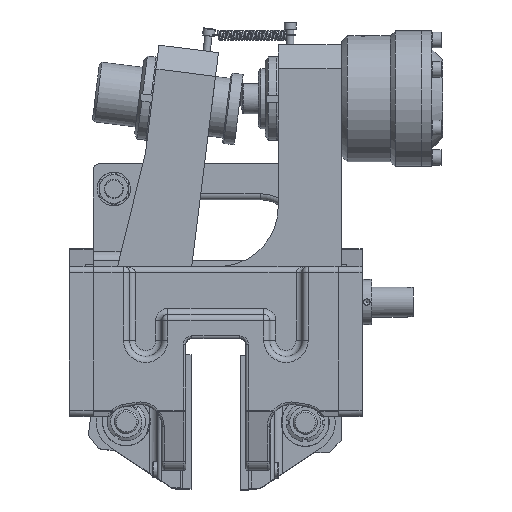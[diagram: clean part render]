
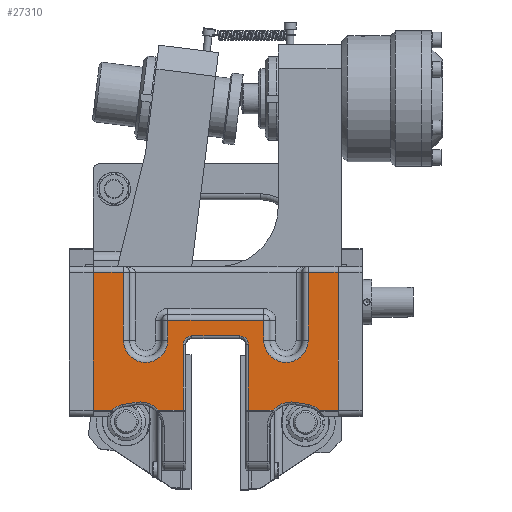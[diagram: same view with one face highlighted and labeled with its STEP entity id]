
A CAD part, top view. The second image highlights one B-rep face of the part: STEP entity #27310.
In plain terms, the highlighted planar face has unit normal (0, 0, 1).
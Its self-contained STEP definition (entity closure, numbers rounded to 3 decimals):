
#1729=PLANE('',#29846);
#2863=FACE_OUTER_BOUND('',#4480,.T.);
#4480=EDGE_LOOP('',(#22017,#22018,#22019,#22020,#22021,#22022,#22023,#22024,
#22025,#22026,#22027,#22028,#22029,#22030,#22031,#22032,#22033,#22034,#22035,
#22036,#22037,#22038,#22039,#22040,#22041,#22042));
#6318=LINE('',#50148,#8217);
#6429=LINE('',#50485,#8328);
#6474=LINE('',#50668,#8373);
#6475=LINE('',#50741,#8374);
#6477=LINE('',#50745,#8376);
#6478=LINE('',#50747,#8377);
#6479=LINE('',#50751,#8378);
#6480=LINE('',#50755,#8379);
#6481=LINE('',#50757,#8380);
#6482=LINE('',#50761,#8381);
#6483=LINE('',#50764,#8382);
#6484=LINE('',#50766,#8383);
#6485=LINE('',#50768,#8384);
#6486=LINE('',#50772,#8385);
#6487=LINE('',#50774,#8386);
#6488=LINE('',#50776,#8387);
#6489=LINE('',#50780,#8388);
#6490=LINE('',#50781,#8389);
#8217=VECTOR('',#35652,10.);
#8328=VECTOR('',#35975,10.);
#8373=VECTOR('',#36100,10.);
#8374=VECTOR('',#36117,10.);
#8376=VECTOR('',#36121,10.);
#8377=VECTOR('',#36122,10.);
#8378=VECTOR('',#36125,10.);
#8379=VECTOR('',#36128,10.);
#8380=VECTOR('',#36129,10.);
#8381=VECTOR('',#36132,10.);
#8382=VECTOR('',#36135,10.);
#8383=VECTOR('',#36136,5.);
#8384=VECTOR('',#36137,10.);
#8385=VECTOR('',#36140,10.);
#8386=VECTOR('',#36141,10.);
#8387=VECTOR('',#36142,10.);
#8388=VECTOR('',#36145,10.);
#8389=VECTOR('',#36146,5.);
#9906=CIRCLE('',#29835,20.);
#9910=CIRCLE('',#29841,18.);
#9912=CIRCLE('',#29847,7.);
#9913=CIRCLE('',#29848,7.);
#9914=CIRCLE('',#29849,20.);
#9915=CIRCLE('',#29850,18.);
#9916=CIRCLE('',#29851,18.5);
#9917=CIRCLE('',#29852,18.5);
#12066=VERTEX_POINT('',#50141);
#12068=VERTEX_POINT('',#50147);
#12185=VERTEX_POINT('',#50475);
#12188=VERTEX_POINT('',#50483);
#12221=VERTEX_POINT('',#50646);
#12223=VERTEX_POINT('',#50658);
#12225=VERTEX_POINT('',#50664);
#12227=VERTEX_POINT('',#50670);
#12233=VERTEX_POINT('',#50744);
#12234=VERTEX_POINT('',#50746);
#12235=VERTEX_POINT('',#50748);
#12236=VERTEX_POINT('',#50750);
#12237=VERTEX_POINT('',#50752);
#12238=VERTEX_POINT('',#50754);
#12239=VERTEX_POINT('',#50756);
#12240=VERTEX_POINT('',#50758);
#12241=VERTEX_POINT('',#50760);
#12242=VERTEX_POINT('',#50762);
#12243=VERTEX_POINT('',#50765);
#12244=VERTEX_POINT('',#50767);
#12245=VERTEX_POINT('',#50769);
#12246=VERTEX_POINT('',#50771);
#12247=VERTEX_POINT('',#50773);
#12248=VERTEX_POINT('',#50775);
#12249=VERTEX_POINT('',#50777);
#12250=VERTEX_POINT('',#50779);
#15433=EDGE_CURVE('',#12068,#12066,#6318,.T.);
#15602=EDGE_CURVE('',#12185,#12188,#6429,.T.);
#15666=EDGE_CURVE('',#12221,#12223,#9906,.T.);
#15669=EDGE_CURVE('',#12223,#12225,#6474,.T.);
#15672=EDGE_CURVE('',#12225,#12227,#9910,.T.);
#15679=EDGE_CURVE('',#12227,#12066,#6475,.T.);
#15681=EDGE_CURVE('',#12233,#12221,#6477,.T.);
#15682=EDGE_CURVE('',#12234,#12233,#6478,.T.);
#15683=EDGE_CURVE('',#12235,#12234,#9912,.T.);
#15684=EDGE_CURVE('',#12236,#12235,#6479,.T.);
#15685=EDGE_CURVE('',#12237,#12236,#9913,.T.);
#15686=EDGE_CURVE('',#12238,#12237,#6480,.T.);
#15687=EDGE_CURVE('',#12239,#12238,#6481,.T.);
#15688=EDGE_CURVE('',#12240,#12239,#9914,.T.);
#15689=EDGE_CURVE('',#12241,#12240,#6482,.T.);
#15690=EDGE_CURVE('',#12242,#12241,#9915,.T.);
#15691=EDGE_CURVE('',#12185,#12242,#6483,.T.);
#15692=EDGE_CURVE('',#12243,#12188,#6484,.T.);
#15693=EDGE_CURVE('',#12244,#12243,#6485,.T.);
#15694=EDGE_CURVE('',#12245,#12244,#9916,.T.);
#15695=EDGE_CURVE('',#12246,#12245,#6486,.T.);
#15696=EDGE_CURVE('',#12247,#12246,#6487,.T.);
#15697=EDGE_CURVE('',#12248,#12247,#6488,.T.);
#15698=EDGE_CURVE('',#12249,#12248,#9917,.T.);
#15699=EDGE_CURVE('',#12250,#12249,#6489,.T.);
#15700=EDGE_CURVE('',#12068,#12250,#6490,.T.);
#22017=ORIENTED_EDGE('',*,*,#15672,.F.);
#22018=ORIENTED_EDGE('',*,*,#15669,.F.);
#22019=ORIENTED_EDGE('',*,*,#15666,.F.);
#22020=ORIENTED_EDGE('',*,*,#15681,.F.);
#22021=ORIENTED_EDGE('',*,*,#15682,.F.);
#22022=ORIENTED_EDGE('',*,*,#15683,.F.);
#22023=ORIENTED_EDGE('',*,*,#15684,.F.);
#22024=ORIENTED_EDGE('',*,*,#15685,.F.);
#22025=ORIENTED_EDGE('',*,*,#15686,.F.);
#22026=ORIENTED_EDGE('',*,*,#15687,.F.);
#22027=ORIENTED_EDGE('',*,*,#15688,.F.);
#22028=ORIENTED_EDGE('',*,*,#15689,.F.);
#22029=ORIENTED_EDGE('',*,*,#15690,.F.);
#22030=ORIENTED_EDGE('',*,*,#15691,.F.);
#22031=ORIENTED_EDGE('',*,*,#15602,.T.);
#22032=ORIENTED_EDGE('',*,*,#15692,.F.);
#22033=ORIENTED_EDGE('',*,*,#15693,.F.);
#22034=ORIENTED_EDGE('',*,*,#15694,.F.);
#22035=ORIENTED_EDGE('',*,*,#15695,.F.);
#22036=ORIENTED_EDGE('',*,*,#15696,.F.);
#22037=ORIENTED_EDGE('',*,*,#15697,.F.);
#22038=ORIENTED_EDGE('',*,*,#15698,.F.);
#22039=ORIENTED_EDGE('',*,*,#15699,.F.);
#22040=ORIENTED_EDGE('',*,*,#15700,.F.);
#22041=ORIENTED_EDGE('',*,*,#15433,.T.);
#22042=ORIENTED_EDGE('',*,*,#15679,.F.);
#27310=ADVANCED_FACE('',(#2863),#1729,.T.);
#29835=AXIS2_PLACEMENT_3D('',#50662,#36093,#36094);
#29841=AXIS2_PLACEMENT_3D('',#50674,#36107,#36108);
#29846=AXIS2_PLACEMENT_3D('',#50743,#36119,#36120);
#29847=AXIS2_PLACEMENT_3D('',#50749,#36123,#36124);
#29848=AXIS2_PLACEMENT_3D('',#50753,#36126,#36127);
#29849=AXIS2_PLACEMENT_3D('',#50759,#36130,#36131);
#29850=AXIS2_PLACEMENT_3D('',#50763,#36133,#36134);
#29851=AXIS2_PLACEMENT_3D('',#50770,#36138,#36139);
#29852=AXIS2_PLACEMENT_3D('',#50778,#36143,#36144);
#35652=DIRECTION('',(0.,-1.,0.));
#35975=DIRECTION('',(0.,1.,0.));
#36093=DIRECTION('center_axis',(0.,0.,
1.));
#36094=DIRECTION('ref_axis',(0.29,0.957,0.));
#36100=DIRECTION('',(-0.985,-0.174,0.));
#36107=DIRECTION('center_axis',(0.,0.,
1.));
#36108=DIRECTION('ref_axis',(-0.388,0.922,0.));
#36117=DIRECTION('',(-1.,0.,0.));
#36119=DIRECTION('center_axis',(0.,0.,
1.));
#36120=DIRECTION('ref_axis',(1.,0.,0.));
#36121=DIRECTION('',(-1.,0.,0.));
#36122=DIRECTION('',(0.,-1.,0.));
#36123=DIRECTION('center_axis',(0.,0.,
1.));
#36124=DIRECTION('ref_axis',(-0.707,0.707,0.));
#36125=DIRECTION('',(-1.,0.,0.));
#36126=DIRECTION('center_axis',(0.,0.,
1.));
#36127=DIRECTION('ref_axis',(0.707,0.707,0.));
#36128=DIRECTION('',(0.,1.,0.));
#36129=DIRECTION('',(-1.,0.,0.));
#36130=DIRECTION('center_axis',(0.,0.,
1.));
#36131=DIRECTION('ref_axis',(-0.29,0.957,0.));
#36132=DIRECTION('',(-0.985,0.174,0.));
#36133=DIRECTION('center_axis',(0.,0.,
1.));
#36134=DIRECTION('ref_axis',(0.388,0.922,0.));
#36135=DIRECTION('',(-1.,0.,0.));
#36136=DIRECTION('',(1.,0.,0.));
#36137=DIRECTION('',(0.,1.,0.));
#36138=DIRECTION('center_axis',(0.,0.,
1.));
#36139=DIRECTION('ref_axis',(0.,-1.,0.));
#36140=DIRECTION('',(0.,-1.,0.));
#36141=DIRECTION('',(1.,0.,0.));
#36142=DIRECTION('',(0.,1.,0.));
#36143=DIRECTION('center_axis',(0.,0.,
1.));
#36144=DIRECTION('ref_axis',(0.,-1.,0.));
#36145=DIRECTION('',(0.,-1.,0.));
#36146=DIRECTION('',(1.,0.,0.));
#50141=CARTESIAN_POINT('',(-102.,50.,285.));
#50147=CARTESIAN_POINT('',(-102.,165.,285.));
#50148=CARTESIAN_POINT('',(-102.,45.,285.));
#50475=CARTESIAN_POINT('',(102.,50.,285.));
#50483=CARTESIAN_POINT('',(102.,165.,285.));
#50485=CARTESIAN_POINT('',(102.,170.,285.));
#50646=CARTESIAN_POINT('',(-47.801,50.,285.));
#50658=CARTESIAN_POINT('',(-66.478,56.695,285.));
#50662=CARTESIAN_POINT('Origin',(-63.,37.,285.));
#50664=CARTESIAN_POINT('',(-77.63,54.726,285.));
#50668=CARTESIAN_POINT('',(-36.958,61.909,285.));
#50670=CARTESIAN_POINT('',(-86.95,50.,285.));
#50674=CARTESIAN_POINT('Origin',(-74.5,37.,285.));
#50741=CARTESIAN_POINT('',(-102.,50.,285.));
#50743=CARTESIAN_POINT('Origin',(0.,90.129,285.));
#50744=CARTESIAN_POINT('',(-27.,50.,285.));
#50745=CARTESIAN_POINT('',(-102.,50.,285.));
#50746=CARTESIAN_POINT('',(-27.,105.,285.));
#50747=CARTESIAN_POINT('',(-27.,45.065,285.));
#50748=CARTESIAN_POINT('',(-20.,112.,285.));
#50749=CARTESIAN_POINT('Origin',(-20.,105.,285.));
#50750=CARTESIAN_POINT('',(20.,112.,285.));
#50751=CARTESIAN_POINT('',(-10.,112.,285.));
#50752=CARTESIAN_POINT('',(27.,105.,285.));
#50753=CARTESIAN_POINT('Origin',(20.,105.,285.));
#50754=CARTESIAN_POINT('',(27.,50.,285.));
#50755=CARTESIAN_POINT('',(27.,97.565,285.));
#50756=CARTESIAN_POINT('',(47.801,50.,285.));
#50757=CARTESIAN_POINT('',(-102.,50.,285.));
#50758=CARTESIAN_POINT('',(66.478,56.695,285.));
#50759=CARTESIAN_POINT('Origin',(63.,37.,285.));
#50760=CARTESIAN_POINT('',(77.63,54.726,285.));
#50761=CARTESIAN_POINT('',(31.381,62.893,285.));
#50762=CARTESIAN_POINT('',(86.95,50.,285.));
#50763=CARTESIAN_POINT('Origin',(74.5,37.,285.));
#50764=CARTESIAN_POINT('',(-102.,50.,285.));
#50765=CARTESIAN_POINT('',(77.,165.,285.));
#50766=CARTESIAN_POINT('',(0.,165.,285.));
#50767=CARTESIAN_POINT('',(77.,108.5,285.));
#50768=CARTESIAN_POINT('',(77.,127.565,285.));
#50769=CARTESIAN_POINT('',(40.,108.5,285.));
#50770=CARTESIAN_POINT('Origin',(58.5,108.5,285.));
#50771=CARTESIAN_POINT('',(40.,125.,285.));
#50772=CARTESIAN_POINT('',(40.,99.315,285.));
#50773=CARTESIAN_POINT('',(-40.,125.,285.));
#50774=CARTESIAN_POINT('',(20.,125.,285.));
#50775=CARTESIAN_POINT('',(-40.,108.5,285.));
#50776=CARTESIAN_POINT('',(-40.,107.565,285.));
#50777=CARTESIAN_POINT('',(-77.,108.5,285.));
#50778=CARTESIAN_POINT('Origin',(-58.5,108.5,285.));
#50779=CARTESIAN_POINT('',(-77.,165.,285.));
#50780=CARTESIAN_POINT('',(-77.,99.315,285.));
#50781=CARTESIAN_POINT('',(102.,165.,285.));
